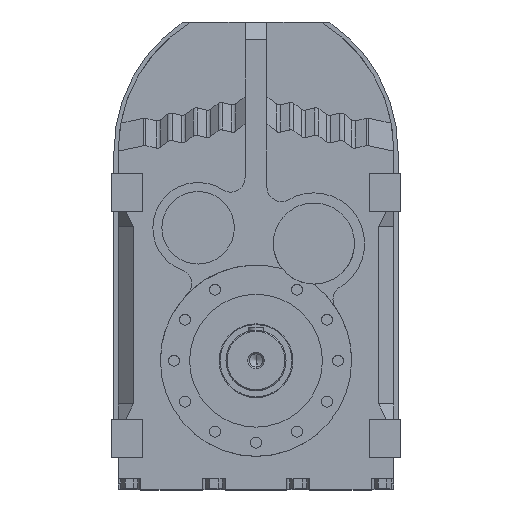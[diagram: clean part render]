
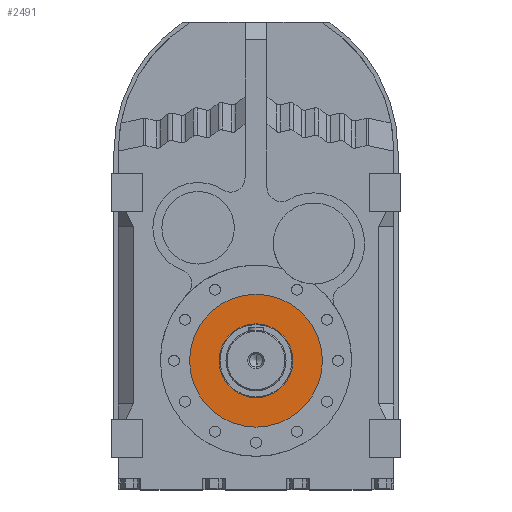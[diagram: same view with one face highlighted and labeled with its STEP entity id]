
A CAD part, top view. The second image highlights one B-rep face of the part: STEP entity #2491.
In plain terms, the highlighted planar face has unit normal (0, 0, 1).
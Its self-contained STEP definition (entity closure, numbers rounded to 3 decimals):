
#892 = CYLINDRICAL_SURFACE('',#893,121.5);
#893 = AXIS2_PLACEMENT_3D('',#894,#895,#896);
#894 = CARTESIAN_POINT('',(0.,-382.6,110.123));
#895 = DIRECTION('',(0.,0.,1.));
#896 = DIRECTION('',(1.,0.,0.));
#918 = CYLINDRICAL_SURFACE('',#919,121.5);
#919 = AXIS2_PLACEMENT_3D('',#920,#921,#922);
#920 = CARTESIAN_POINT('',(0.,-382.6,110.123));
#921 = DIRECTION('',(0.,0.,1.));
#922 = DIRECTION('',(1.,0.,0.));
#968 = EDGE_CURVE('',#969,#971,#973,.T.);
#969 = VERTEX_POINT('',#970);
#970 = CARTESIAN_POINT('',(-121.5,-382.6,369.));
#971 = VERTEX_POINT('',#972);
#972 = CARTESIAN_POINT('',(121.5,-382.6,369.));
#973 = SURFACE_CURVE('',#974,(#979,#985),.PCURVE_S1.);
#974 = CIRCLE('',#975,121.5);
#975 = AXIS2_PLACEMENT_3D('',#976,#977,#978);
#976 = CARTESIAN_POINT('',(0.,-382.6,369.));
#977 = DIRECTION('',(0.,0.,1.));
#978 = DIRECTION('',(1.,0.,0.));
#979 = PCURVE('',#918,#980);
#980 = DEFINITIONAL_REPRESENTATION('',(#981),#984);
#981 = B_SPLINE_CURVE_WITH_KNOTS('',1,(#982,#983),.UNSPECIFIED.,.F.,.F.,
  (2,2),(3.142,6.283),.PIECEWISE_BEZIER_KNOTS.);
#982 = CARTESIAN_POINT('',(3.142,258.877));
#983 = CARTESIAN_POINT('',(6.283,258.877));
#984 = ( GEOMETRIC_REPRESENTATION_CONTEXT(2) 
PARAMETRIC_REPRESENTATION_CONTEXT() REPRESENTATION_CONTEXT('2D SPACE',''
  ) );
#985 = PCURVE('',#986,#991);
#986 = PLANE('',#987);
#987 = AXIS2_PLACEMENT_3D('',#988,#989,#990);
#988 = CARTESIAN_POINT('',(0.,-261.1,369.));
#989 = DIRECTION('',(0.,0.,1.));
#990 = DIRECTION('',(1.,0.,0.));
#991 = DEFINITIONAL_REPRESENTATION('',(#992),#996);
#992 = CIRCLE('',#993,121.5);
#993 = AXIS2_PLACEMENT_2D('',#994,#995);
#994 = CARTESIAN_POINT('',(0.,-121.5));
#995 = DIRECTION('',(1.,0.));
#996 = ( GEOMETRIC_REPRESENTATION_CONTEXT(2) 
PARAMETRIC_REPRESENTATION_CONTEXT() REPRESENTATION_CONTEXT('2D SPACE',''
  ) );
#1923 = EDGE_CURVE('',#971,#969,#1924,.T.);
#1924 = SURFACE_CURVE('',#1925,(#1930,#1936),.PCURVE_S1.);
#1925 = CIRCLE('',#1926,121.5);
#1926 = AXIS2_PLACEMENT_3D('',#1927,#1928,#1929);
#1927 = CARTESIAN_POINT('',(0.,-382.6,369.));
#1928 = DIRECTION('',(0.,0.,1.));
#1929 = DIRECTION('',(1.,0.,0.));
#1930 = PCURVE('',#892,#1931);
#1931 = DEFINITIONAL_REPRESENTATION('',(#1932),#1935);
#1932 = B_SPLINE_CURVE_WITH_KNOTS('',1,(#1933,#1934),.UNSPECIFIED.,.F.,
  .F.,(2,2),(0.,3.142),.PIECEWISE_BEZIER_KNOTS.);
#1933 = CARTESIAN_POINT('',(0.,258.877));
#1934 = CARTESIAN_POINT('',(3.142,258.877));
#1935 = ( GEOMETRIC_REPRESENTATION_CONTEXT(2) 
PARAMETRIC_REPRESENTATION_CONTEXT() REPRESENTATION_CONTEXT('2D SPACE',''
  ) );
#1936 = PCURVE('',#986,#1937);
#1937 = DEFINITIONAL_REPRESENTATION('',(#1938),#1942);
#1938 = CIRCLE('',#1939,121.5);
#1939 = AXIS2_PLACEMENT_2D('',#1940,#1941);
#1940 = CARTESIAN_POINT('',(0.,-121.5));
#1941 = DIRECTION('',(1.,0.));
#1942 = ( GEOMETRIC_REPRESENTATION_CONTEXT(2) 
PARAMETRIC_REPRESENTATION_CONTEXT() REPRESENTATION_CONTEXT('2D SPACE',''
  ) );
#2491 = ADVANCED_FACE('',(#2492,#2496),#986,.T.);
#2492 = FACE_BOUND('',#2493,.T.);
#2493 = EDGE_LOOP('',(#2494,#2495));
#2494 = ORIENTED_EDGE('',*,*,#1923,.T.);
#2495 = ORIENTED_EDGE('',*,*,#968,.T.);
#2496 = FACE_BOUND('',#2497,.T.);
#2497 = EDGE_LOOP('',(#2498,#2528));
#2498 = ORIENTED_EDGE('',*,*,#2499,.F.);
#2499 = EDGE_CURVE('',#2500,#2502,#2504,.T.);
#2500 = VERTEX_POINT('',#2501);
#2501 = CARTESIAN_POINT('',(67.5,-382.6,369.));
#2502 = VERTEX_POINT('',#2503);
#2503 = CARTESIAN_POINT('',(-67.5,-382.6,369.));
#2504 = SURFACE_CURVE('',#2505,(#2510,#2517),.PCURVE_S1.);
#2505 = CIRCLE('',#2506,67.5);
#2506 = AXIS2_PLACEMENT_3D('',#2507,#2508,#2509);
#2507 = CARTESIAN_POINT('',(0.,-382.6,369.));
#2508 = DIRECTION('',(0.,0.,1.));
#2509 = DIRECTION('',(1.,0.,0.));
#2510 = PCURVE('',#986,#2511);
#2511 = DEFINITIONAL_REPRESENTATION('',(#2512),#2516);
#2512 = CIRCLE('',#2513,67.5);
#2513 = AXIS2_PLACEMENT_2D('',#2514,#2515);
#2514 = CARTESIAN_POINT('',(0.,-121.5));
#2515 = DIRECTION('',(1.,0.));
#2516 = ( GEOMETRIC_REPRESENTATION_CONTEXT(2) 
PARAMETRIC_REPRESENTATION_CONTEXT() REPRESENTATION_CONTEXT('2D SPACE',''
  ) );
#2517 = PCURVE('',#2518,#2523);
#2518 = CYLINDRICAL_SURFACE('',#2519,67.5);
#2519 = AXIS2_PLACEMENT_3D('',#2520,#2521,#2522);
#2520 = CARTESIAN_POINT('',(0.,-382.6,110.123));
#2521 = DIRECTION('',(0.,0.,1.));
#2522 = DIRECTION('',(1.,0.,0.));
#2523 = DEFINITIONAL_REPRESENTATION('',(#2524),#2527);
#2524 = B_SPLINE_CURVE_WITH_KNOTS('',1,(#2525,#2526),.UNSPECIFIED.,.F.,
  .F.,(2,2),(0.,3.142),.PIECEWISE_BEZIER_KNOTS.);
#2525 = CARTESIAN_POINT('',(0.,258.877));
#2526 = CARTESIAN_POINT('',(3.142,258.877));
#2527 = ( GEOMETRIC_REPRESENTATION_CONTEXT(2) 
PARAMETRIC_REPRESENTATION_CONTEXT() REPRESENTATION_CONTEXT('2D SPACE',''
  ) );
#2528 = ORIENTED_EDGE('',*,*,#2529,.F.);
#2529 = EDGE_CURVE('',#2502,#2500,#2530,.T.);
#2530 = SURFACE_CURVE('',#2531,(#2536,#2543),.PCURVE_S1.);
#2531 = CIRCLE('',#2532,67.5);
#2532 = AXIS2_PLACEMENT_3D('',#2533,#2534,#2535);
#2533 = CARTESIAN_POINT('',(0.,-382.6,369.));
#2534 = DIRECTION('',(0.,0.,1.));
#2535 = DIRECTION('',(1.,0.,0.));
#2536 = PCURVE('',#986,#2537);
#2537 = DEFINITIONAL_REPRESENTATION('',(#2538),#2542);
#2538 = CIRCLE('',#2539,67.5);
#2539 = AXIS2_PLACEMENT_2D('',#2540,#2541);
#2540 = CARTESIAN_POINT('',(0.,-121.5));
#2541 = DIRECTION('',(1.,0.));
#2542 = ( GEOMETRIC_REPRESENTATION_CONTEXT(2) 
PARAMETRIC_REPRESENTATION_CONTEXT() REPRESENTATION_CONTEXT('2D SPACE',''
  ) );
#2543 = PCURVE('',#2544,#2549);
#2544 = CYLINDRICAL_SURFACE('',#2545,67.5);
#2545 = AXIS2_PLACEMENT_3D('',#2546,#2547,#2548);
#2546 = CARTESIAN_POINT('',(0.,-382.6,110.123));
#2547 = DIRECTION('',(0.,0.,1.));
#2548 = DIRECTION('',(1.,0.,0.));
#2549 = DEFINITIONAL_REPRESENTATION('',(#2550),#2553);
#2550 = B_SPLINE_CURVE_WITH_KNOTS('',1,(#2551,#2552),.UNSPECIFIED.,.F.,
  .F.,(2,2),(3.142,6.283),.PIECEWISE_BEZIER_KNOTS.);
#2551 = CARTESIAN_POINT('',(3.142,258.877));
#2552 = CARTESIAN_POINT('',(6.283,258.877));
#2553 = ( GEOMETRIC_REPRESENTATION_CONTEXT(2) 
PARAMETRIC_REPRESENTATION_CONTEXT() REPRESENTATION_CONTEXT('2D SPACE',''
  ) );
